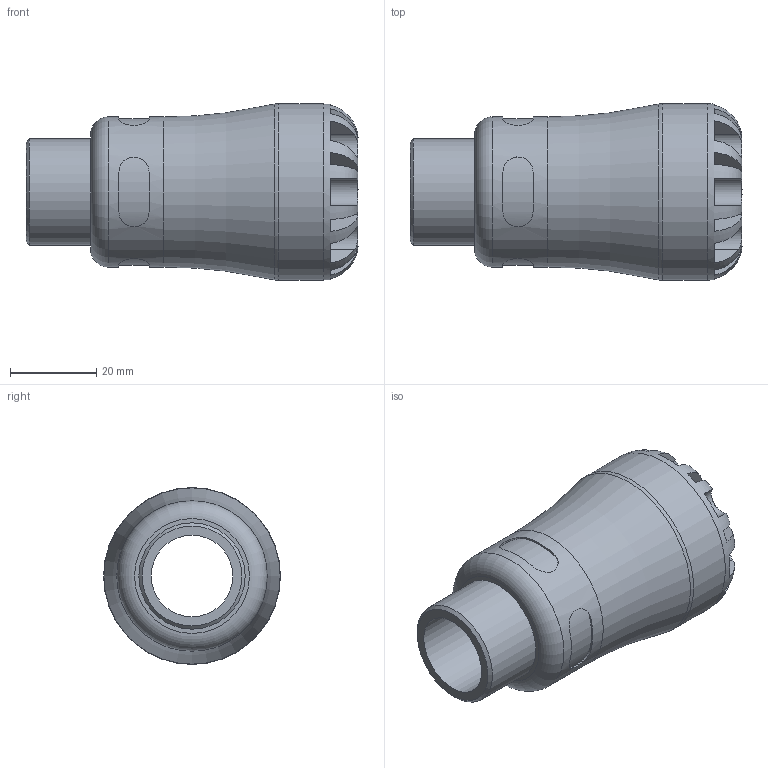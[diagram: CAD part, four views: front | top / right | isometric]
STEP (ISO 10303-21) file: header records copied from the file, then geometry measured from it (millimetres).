
FILE_DESCRIPTION(/* description */ ('PLASSON MALE INTEGRAL BRASS THREAD 20X3/4" SERIES 1'),/* implementation_level */ '2;1');
FILE_NAME(/* name */ 'C:\Dropbox\KIMPROJECTS-Inventor\99-16-3568-Processing\1072\107200020007_197200020007.ipt.stp',/* time_stamp */ '2017-01-22T10:48:43+02:00',/* author */ ('KIM'),/* organization */ (''),/* preprocessor_version */ 'ST-DEVELOPER v15.6',/* originating_system */ 'Autodesk Inventor 2015',/* authorisation */ '');
FILE_SCHEMA (('AUTOMOTIVE_DESIGN { 1 0 10303 214 3 1 1 }'));
Length unit declared in the file: millimetre
Products named in the file (1): 107200020007_197200020007
Bounding box: 77 x 41 x 41 mm (x, y, z)
Volume: 48772.9 mm3; surface area: 15479 mm2
Topology: 1 solids, 1 shells, 99 faces, 245 edges, 153 vertices
Faces by surface type: plane 60, cylinder 33, torus 4, cone 2
Full cylindrical faces by diameter (mm): 18.944 x1, 20 x1, 24.658 x1, 34.85 x1, 41 x1
Entity records: 3745 total; most frequent: CARTESIAN_POINT 1396, ORIENTED_EDGE 460, DIRECTION 452, EDGE_CURVE 230, AXIS2_PLACEMENT_3D 186, VERTEX_POINT 150, EDGE_LOOP 118, STYLED_ITEM 100
